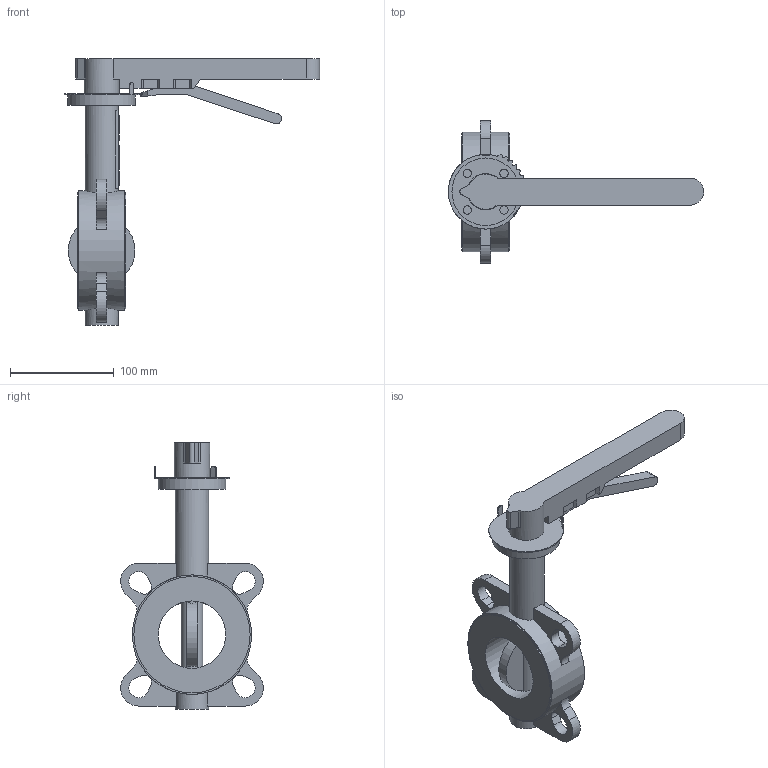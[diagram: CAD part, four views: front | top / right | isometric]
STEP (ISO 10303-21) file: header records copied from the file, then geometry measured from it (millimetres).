
FILE_DESCRIPTION(('STEP AP203'), '1');
FILE_NAME('Çàòâîð 017W.ZS DN65 PN10_16 ðóêîÿòêà', '', ('UNSPECIFIED'), ('UNSPECIFIED'), 'ASCON STEP Converter 1.6', 'ASCON Math Kernel', '');
FILE_SCHEMA(('CONFIG_CONTROL_DESIGN'));
Length unit declared in the file: millimetre
Bounding box: 245.97 x 137.48 x 257 mm (x, y, z)
Volume: 164924.6 mm3; surface area: 117757.9 mm2
Topology: 1 solids, 2 shells, 725 faces, 2135 edges, 1378 vertices
Faces by surface type: cylinder 480, plane 245
Full cylindrical faces by diameter (mm): 8 x4, 12.6 x1, 21 x1, 32 x2, 34 x1, 35 x1, 65 x2, 112 x2, 115 x1
Entity records: 31170 total; most frequent: CARTESIAN_POINT 5108, DIRECTION 4568, ORIENTED_EDGE 4179, EDGE_CURVE 2121, AXIS2_PLACEMENT_3D 1744, VERTEX_POINT 1378, LINE 1080, VECTOR 1080
